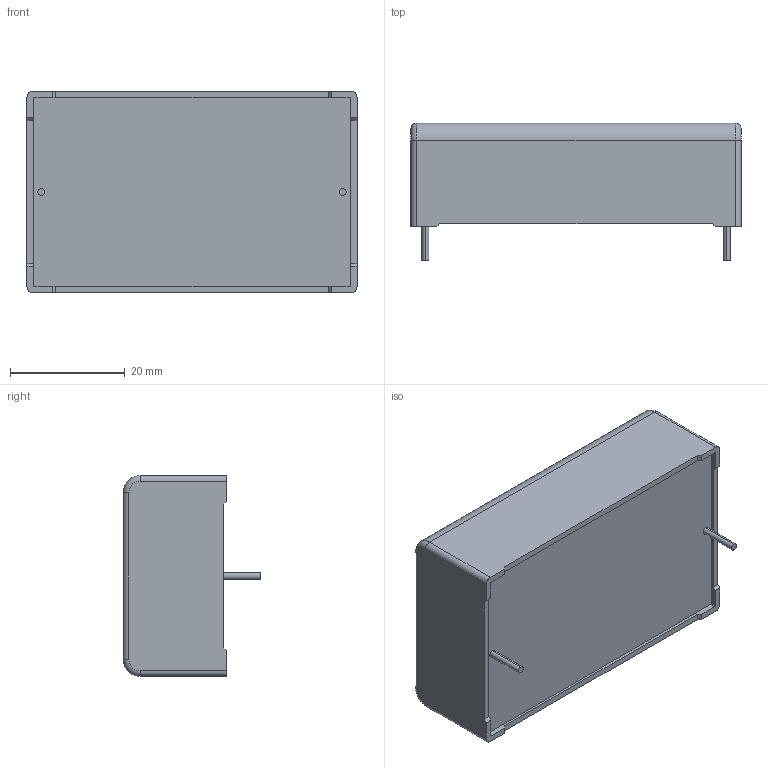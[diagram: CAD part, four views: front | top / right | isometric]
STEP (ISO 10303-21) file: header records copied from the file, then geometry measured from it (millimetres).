
FILE_DESCRIPTION (( 'STEP AP203' ), '1' );
FILE_NAME ('DC_Link_35x18x57.5_2pins.step', '2017-04-03T16:00:13', ( 'work' ), ( 'Hewlett-Packard Company' ), 'SwSTEP 2.0', 'SolidWorks 2017', '' );
FILE_SCHEMA (( 'CONFIG_CONTROL_DESIGN' ));
Length unit declared in the file: millimetre
Products named in the file (1): DC_Link_35x18x57.5_2pins
Bounding box: 57.5 x 24 x 35 mm (x, y, z)
Volume: 34094.9 mm3; surface area: 7222.9 mm2
Topology: 1 solids, 1 shells, 116 faces, 307 edges, 202 vertices
Faces by surface type: plane 80, cylinder 16, bspline 16, torus 4
Entity records: 4332 total; most frequent: CARTESIAN_POINT 1450, ORIENTED_EDGE 614, DIRECTION 513, EDGE_CURVE 307, VECTOR 239, LINE 239, VERTEX_POINT 202, AXIS2_PLACEMENT_3D 137
